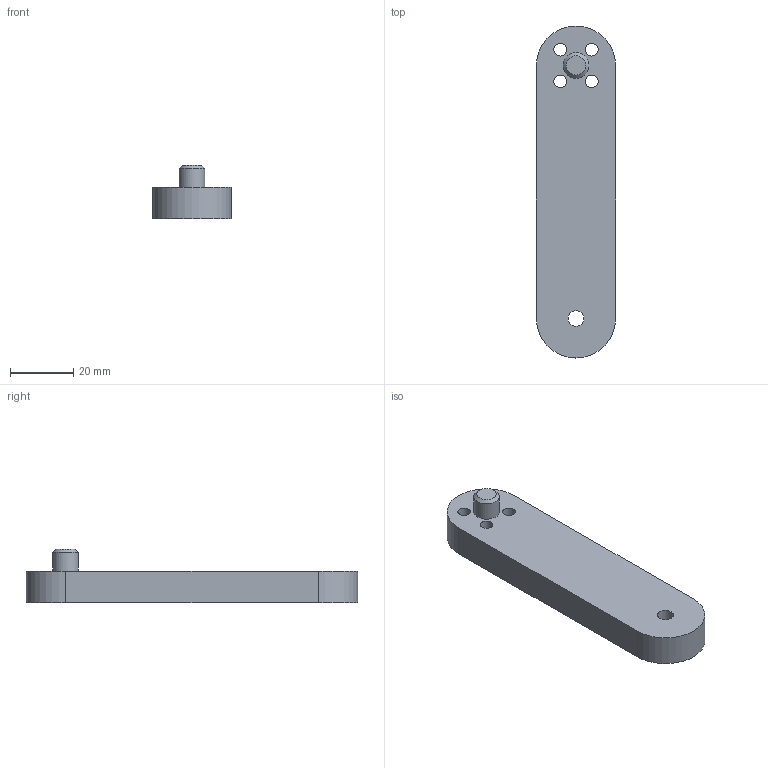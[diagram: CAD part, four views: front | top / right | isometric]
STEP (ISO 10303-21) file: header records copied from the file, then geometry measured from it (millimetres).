
FILE_DESCRIPTION(/* description */ ('STEP AP242 Edition 2','CAx-IF Rec.Pracs.---Representation and Presentation of Product Manufacturing Information (PMI)---4.0---2014-10-13','CAx-IF Rec.Pracs.---3D Tessellated Geometry---0.4---2014-09-14','2;1','CAx-IF Rec.Pracs.---User Defined Attributes---1.5---2016-08-15'),/* implementation_level */ '2;1');
FILE_NAME(/* name */ 'Draw Bot V4 - Updated Design - Left L1 Arm',/* time_stamp */ '2026-04-19T16:23:58Z',/* author */ (''),/* organization */ (''),/* preprocessor_version */ 'ST-DEVELOPER v20',/* originating_system */ 'ONSHAPE BY PTC INC, 1.213',/* authorisation */ ' ');
FILE_SCHEMA (('AP242_MANAGED_MODEL_BASED_3D_ENGINEERING_MIM_LF { 1 0 10303 442 3 1 4 }'));
Length unit declared in the file: millimetre
Products named in the file (1): Left L1 Arm
Bounding box: 25 x 105 x 16.9 mm (x, y, z)
Volume: 24553.6 mm3; surface area: 8046.5 mm2
Topology: 1 solids, 1 shells, 14 faces, 32 edges, 21 vertices
Faces by surface type: cylinder 8, plane 5, cone 1
Full cylindrical faces by diameter (mm): 4 x4, 5 x1, 8.1 x1
Entity records: 412 total; most frequent: DIRECTION 72, CARTESIAN_POINT 61, ORIENTED_EDGE 50, EDGE_LOOP 32, FACE_BOUND 32, AXIS2_PLACEMENT_3D 32, EDGE_CURVE 25, VERTEX_POINT 21
